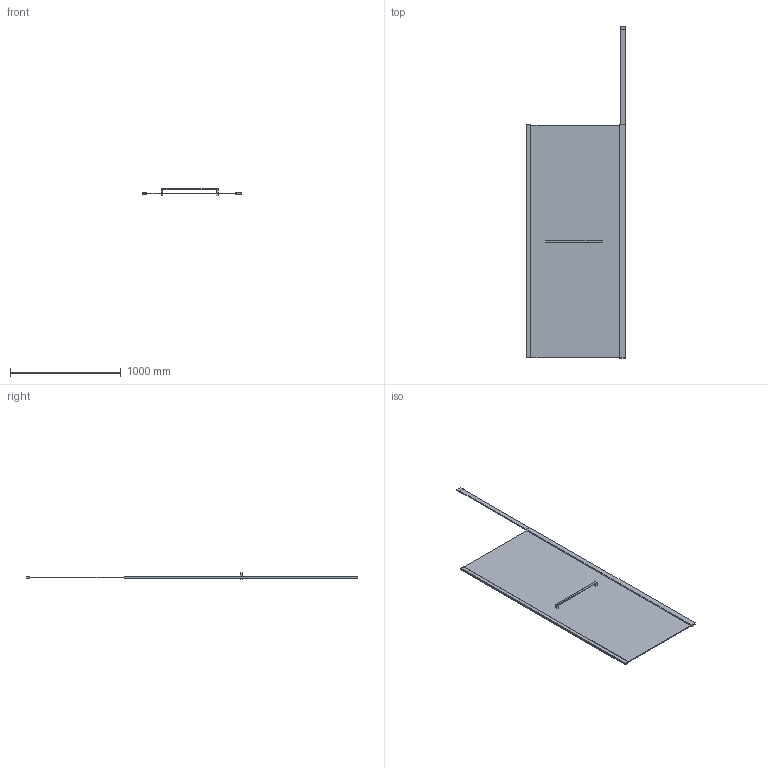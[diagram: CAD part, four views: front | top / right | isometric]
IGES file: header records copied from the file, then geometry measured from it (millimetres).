
Start section: SolidWorks IGES file using analytic representation for surfaces
Global section: file name: D:\Users\M.Szymanski\Desktop\Kabiny\PI_ALTIIa\PI_ALTIIa_90_wspornik pionowy_K3D.IGS; native system: SolidWorks 2011; preprocessor: SolidWorks 2011; author: M.Szymanski; date: 181002.135936; units: millimetre
Bounding box: 899.9 x 3000 x 54.5 mm (x, y, z)
Surface area: 4419224.2 mm2 (no closed solid volume)
Topology: 0 solids, 0 shells, 49 faces, 324 edges, 432 vertices
Faces by surface type: bspline 49
